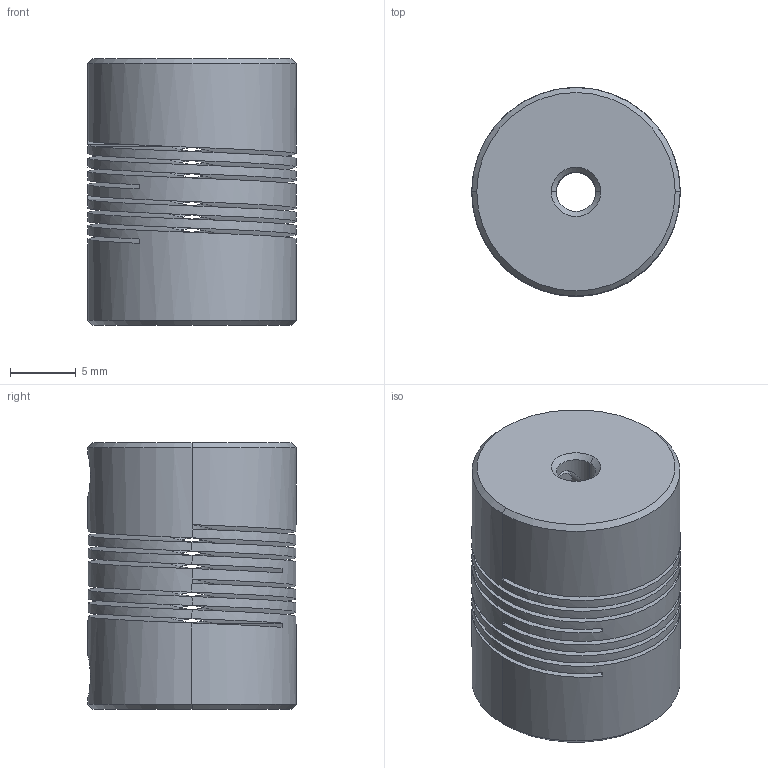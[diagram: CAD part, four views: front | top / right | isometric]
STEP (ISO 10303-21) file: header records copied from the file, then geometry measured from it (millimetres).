
FILE_DESCRIPTION((''),'2;1');
FILE_NAME('PSMR16-3-3-A','2016-09-08T',('SYSTEM'),(''),'PRO/ENGINEER BY PARAMETRIC TECHNOLOGY CORPORATION, 2015110','PRO/ENGINEER BY PARAMETRIC TECHNOLOGY CORPORATION, 2015110','');
FILE_SCHEMA(('AUTOMOTIVE_DESIGN { 1 0 10303 214 1 1 1 1 }'));
Length unit declared in the file: millimetre
Products named in the file (1): PSMR16-3-3-A
Bounding box: 15.88 x 15.88 x 20.32 mm (x, y, z)
Volume: 3390.1 mm3; surface area: 4176.2 mm2
Topology: 3 solids, 3 shells, 102 faces, 262 edges, 160 vertices
Faces by surface type: cylinder 40, plane 28, cone 20, bspline 14
Entity records: 6609 total; most frequent: CARTESIAN_POINT 3433, ORIENTED_EDGE 524, DIRECTION 398, PRESENTATION_STYLE_ASSIGNMENT 265, STYLED_ITEM 265, CURVE_STYLE 262, EDGE_CURVE 262, VERTEX_POINT 160
